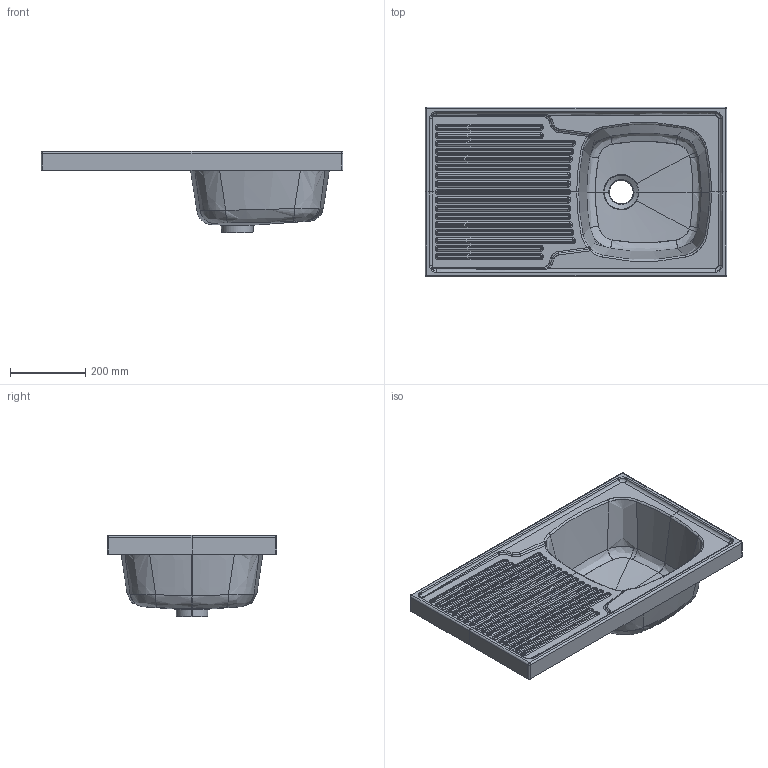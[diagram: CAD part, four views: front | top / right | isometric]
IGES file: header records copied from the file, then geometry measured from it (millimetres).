
Start section: START RECORD GO HERE.
Global section: file name: 5001_3D.igs; native system: DASSAULT SYSTEMES CATIA V5 R19 - www.3ds.com; preprocessor: CATIA Version 5 Release 19 SP 5 ; author: gioge; organization: LAPTOP-G94B6G74; date: 20201024.093533; units: millimetre
Bounding box: 800 x 450 x 215 mm (x, y, z)
Surface area: 1168872.3 mm2 (no closed solid volume)
Topology: 0 solids, 0 shells, 475 faces, 2216 edges, 2212 vertices
Faces by surface type: revolution 337, bspline 94, plane 44
